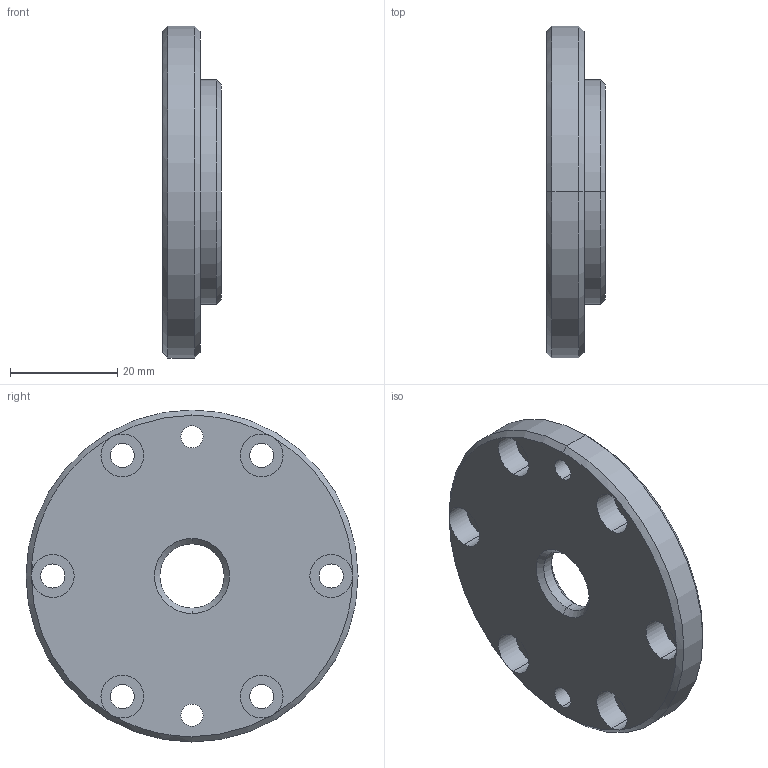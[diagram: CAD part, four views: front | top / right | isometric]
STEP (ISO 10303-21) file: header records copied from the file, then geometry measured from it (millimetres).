
FILE_DESCRIPTION (( 'STEP AP214' ), '1' );
FILE_NAME ('AGZ061.03.03_V1防尘盖.STEP', '2021-09-23T06:14:15', ( '微软中国' ), ( 'Microsoft' ), 'SwSTEP 2.0', 'SolidWorks 2017', '' );
FILE_SCHEMA (( 'AUTOMOTIVE_DESIGN' ));
Length unit declared in the file: millimetre
Products named in the file (1): AGZ061.03.03_V1滅鳥裔
Bounding box: 11 x 62 x 62 mm (x, y, z)
Volume: 18415 mm3; surface area: 8988.4 mm2
Topology: 1 solids, 1 shells, 61 faces, 150 edges, 94 vertices
Faces by surface type: cylinder 38, cone 12, plane 11
Entity records: 1954 total; most frequent: DIRECTION 374, CARTESIAN_POINT 306, ORIENTED_EDGE 300, AXIS2_PLACEMENT_3D 162, EDGE_CURVE 150, CIRCLE 100, VERTEX_POINT 94, EDGE_LOOP 82
